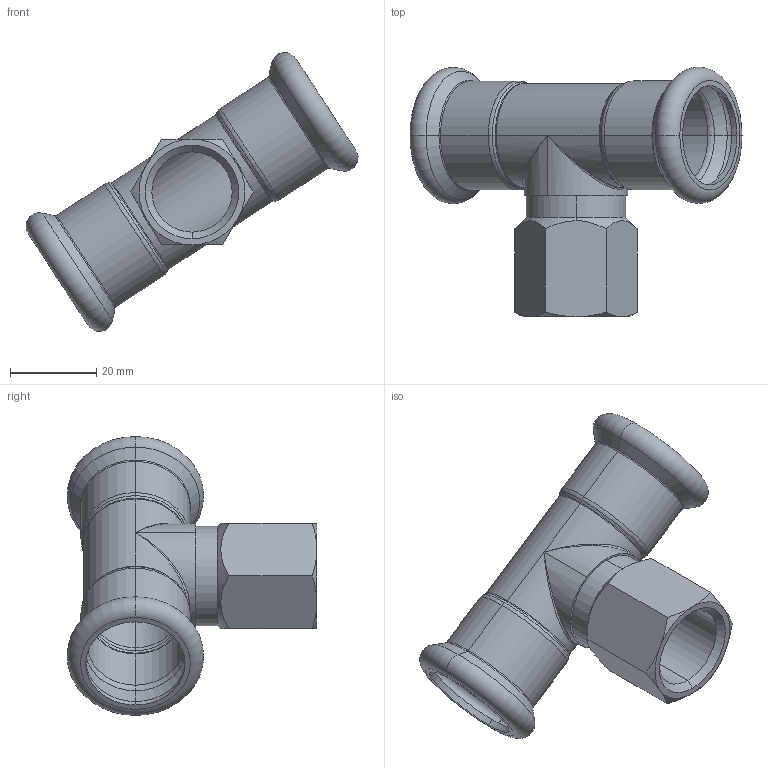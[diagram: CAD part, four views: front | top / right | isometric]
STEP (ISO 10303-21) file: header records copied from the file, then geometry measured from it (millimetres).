
FILE_DESCRIPTION (( 'STEP AP203' ), '1' );
FILE_NAME ('GDA5244.STEP', '2019-01-10T05:31:04', ( '' ), ( '' ), 'SwSTEP 2.0', 'SolidWorks 2015', '' );
FILE_SCHEMA (( 'CONFIG_CONTROL_DESIGN' ));
Length unit declared in the file: millimetre
Products named in the file (3): ITCT22｡ﾁ?; ITC-I-03-22℅?; GDA5244
Assembly tree (2 placements, depth 2):
  GDA5244
    ITC-I-03-22℅?
    ITCT22｡ﾁ?
Bounding box: 76.84 x 57.8 x 64.55 mm (x, y, z)
Volume: 14928.3 mm3; surface area: 16779.8 mm2
Topology: 2 solids, 2 shells, 105 faces, 222 edges, 114 vertices
Faces by surface type: torus 32, cone 28, cylinder 28, plane 13, bspline 4
Entity records: 3481 total; most frequent: CARTESIAN_POINT 974, DIRECTION 526, ORIENTED_EDGE 428, AXIS2_PLACEMENT_3D 234, EDGE_CURVE 214, CIRCLE 128, VERTEX_POINT 114, EDGE_LOOP 112
